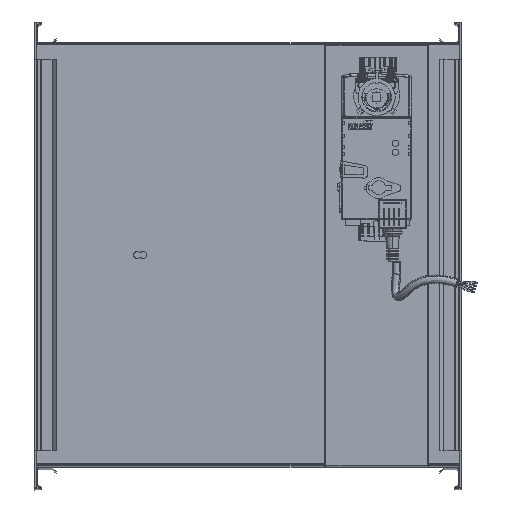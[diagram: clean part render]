
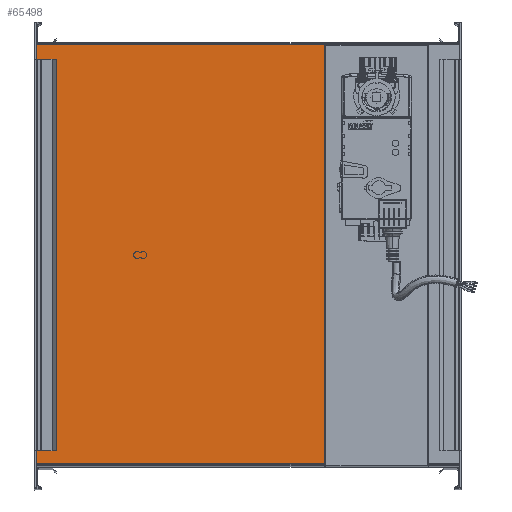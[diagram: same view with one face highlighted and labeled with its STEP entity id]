
A CAD part, top view. The second image highlights one B-rep face of the part: STEP entity #65498.
In plain terms, the highlighted planar face has unit normal (0, 0, 1).
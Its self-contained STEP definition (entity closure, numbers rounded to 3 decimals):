
#365 = EDGE_CURVE ( 'NONE', #27069, #78962, #24232, .T. ) ;
#5573 = ORIENTED_EDGE ( 'NONE', *, *, #51182, .F. ) ;
#6583 = ORIENTED_EDGE ( 'NONE', *, *, #365, .F. ) ;
#7434 = EDGE_CURVE ( 'NONE', #53780, #30300, #71659, .T. ) ;
#7823 = CARTESIAN_POINT ( 'NONE',  ( -244.423, -183.848, 1600. ) ) ;
#14940 = AXIS2_PLACEMENT_3D ( 'NONE', #64312, #20992, #34686 ) ;
#18075 = CARTESIAN_POINT ( 'NONE',  ( 28.374, -187.382, 1600. ) ) ;
#20992 = DIRECTION ( 'NONE',  ( 0., 0., 1. ) ) ;
#21441 = FACE_OUTER_BOUND ( 'NONE', #40451, .T. ) ;
#24232 = LINE ( 'NONE', #18075, #56343 ) ;
#27069 = VERTEX_POINT ( 'NONE', #58055 ) ;
#28214 = VECTOR ( 'NONE', #34037, 1000. ) ;
#30300 = VERTEX_POINT ( 'NONE', #78060 ) ;
#34037 = DIRECTION ( 'NONE',  ( 0., -1., 0. ) ) ;
#34686 = DIRECTION ( 'NONE',  ( 1., 0., 0. ) ) ;
#40451 = EDGE_LOOP ( 'NONE', ( #47196, #6583, #5573, #77430 ) ) ;
#43731 = DIRECTION ( 'NONE',  ( 1., 0., 0. ) ) ;
#44362 = CARTESIAN_POINT ( 'NONE',  ( -244.423, 212.152, 1600. ) ) ;
#47196 = ORIENTED_EDGE ( 'NONE', *, *, #70711, .T. ) ;
#50645 = VECTOR ( 'NONE', #43731, 1000. ) ;
#51182 = EDGE_CURVE ( 'NONE', #53780, #27069, #81796, .T. ) ;
#51700 = CARTESIAN_POINT ( 'NONE',  ( 28.374, -183.848, 1600. ) ) ;
#52948 = DIRECTION ( 'NONE',  ( 0., -1., 0. ) ) ;
#53579 = CARTESIAN_POINT ( 'NONE',  ( -244.423, 212.152, 1600. ) ) ;
#53780 = VERTEX_POINT ( 'NONE', #44362 ) ;
#56343 = VECTOR ( 'NONE', #52948, 1000. ) ;
#58055 = CARTESIAN_POINT ( 'NONE',  ( 28.374, 212.152, 1600. ) ) ;
#64312 = CARTESIAN_POINT ( 'NONE',  ( -244.423, -183.848, 1600. ) ) ;
#65498 = ADVANCED_FACE ( 'NONE', ( #21441 ), #78897, .T. ) ;
#70711 = EDGE_CURVE ( 'NONE', #30300, #78962, #80355, .T. ) ;
#71659 = LINE ( 'NONE', #83907, #28214 ) ;
#77430 = ORIENTED_EDGE ( 'NONE', *, *, #7434, .T. ) ;
#78060 = CARTESIAN_POINT ( 'NONE',  ( -244.423, -183.848, 1600. ) ) ;
#78897 = PLANE ( 'NONE',  #14940 ) ;
#78962 = VERTEX_POINT ( 'NONE', #51700 ) ;
#80355 = LINE ( 'NONE', #7823, #50645 ) ;
#81796 = LINE ( 'NONE', #53579, #89576 ) ;
#82263 = DIRECTION ( 'NONE',  ( 1., 0., 0. ) ) ;
#83907 = CARTESIAN_POINT ( 'NONE',  ( -244.423, -183.848, 1600. ) ) ;
#89576 = VECTOR ( 'NONE', #82263, 1000. ) ;
